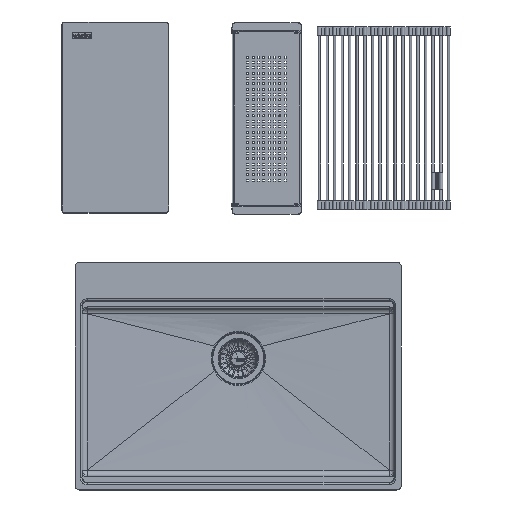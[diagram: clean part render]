
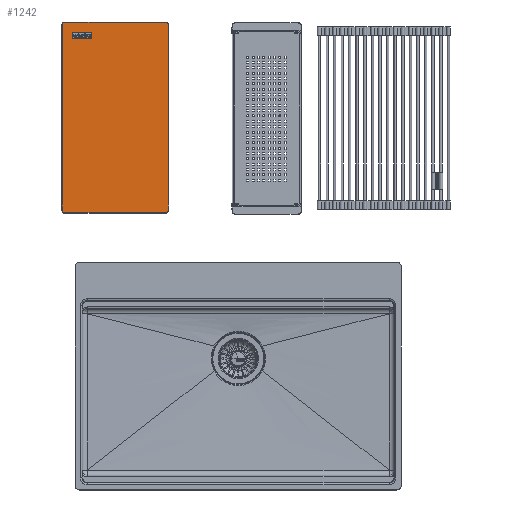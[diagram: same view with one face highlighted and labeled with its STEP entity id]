
A CAD part, top view. The second image highlights one B-rep face of the part: STEP entity #1242.
In plain terms, the highlighted planar face has unit normal (0, 0, 1).
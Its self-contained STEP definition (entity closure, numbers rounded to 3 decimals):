
#353=FACE_BOUND('',#10579,.T.);
#354=FACE_BOUND('',#10580,.T.);
#355=FACE_BOUND('',#10581,.T.);
#1242=ADVANCED_FACE('',(#5904,#353,#354,#355),#80887,.T.);
#5904=FACE_OUTER_BOUND('',#10578,.T.);
#10578=EDGE_LOOP('',(#16955,#16956,#16957,#16958,#16959,#16960,#16961,#16962));
#10579=EDGE_LOOP('',(#16963,#16964,#16965,#16966));
#10580=EDGE_LOOP('',(#16967,#16968,#16969,#16970));
#10581=EDGE_LOOP('',(#16971,#16972,#16973,#16974));
#16955=ORIENTED_EDGE('',*,*,#42175,.T.);
#16956=ORIENTED_EDGE('',*,*,#42131,.T.);
#16957=ORIENTED_EDGE('',*,*,#42190,.T.);
#16958=ORIENTED_EDGE('',*,*,#42132,.T.);
#16959=ORIENTED_EDGE('',*,*,#42186,.T.);
#16960=ORIENTED_EDGE('',*,*,#42133,.T.);
#16961=ORIENTED_EDGE('',*,*,#42180,.T.);
#16962=ORIENTED_EDGE('',*,*,#42134,.T.);
#16963=ORIENTED_EDGE('',*,*,#41820,.T.);
#16964=ORIENTED_EDGE('',*,*,#41816,.T.);
#16965=ORIENTED_EDGE('',*,*,#41826,.T.);
#16966=ORIENTED_EDGE('',*,*,#41823,.T.);
#16967=ORIENTED_EDGE('',*,*,#41952,.T.);
#16968=ORIENTED_EDGE('',*,*,#41948,.T.);
#16969=ORIENTED_EDGE('',*,*,#41958,.T.);
#16970=ORIENTED_EDGE('',*,*,#41955,.T.);
#16971=ORIENTED_EDGE('',*,*,#42105,.T.);
#16972=ORIENTED_EDGE('',*,*,#42101,.T.);
#16973=ORIENTED_EDGE('',*,*,#42111,.T.);
#16974=ORIENTED_EDGE('',*,*,#42108,.T.);
#41816=EDGE_CURVE('',#71844,#71845,#54630,.T.);
#41820=EDGE_CURVE('',#71848,#71844,#54634,.T.);
#41823=EDGE_CURVE('',#71850,#71848,#54637,.T.);
#41826=EDGE_CURVE('',#71845,#71850,#54640,.T.);
#41948=EDGE_CURVE('',#71932,#71933,#54762,.T.);
#41952=EDGE_CURVE('',#71936,#71932,#54766,.T.);
#41955=EDGE_CURVE('',#71938,#71936,#54769,.T.);
#41958=EDGE_CURVE('',#71933,#71938,#54772,.T.);
#42101=EDGE_CURVE('',#72034,#72035,#54915,.T.);
#42105=EDGE_CURVE('',#72038,#72034,#54919,.T.);
#42108=EDGE_CURVE('',#72040,#72038,#54922,.T.);
#42111=EDGE_CURVE('',#72035,#72040,#54925,.T.);
#42131=EDGE_CURVE('',#72055,#72056,#54939,.T.);
#42132=EDGE_CURVE('',#72057,#72058,#54940,.T.);
#42133=EDGE_CURVE('',#72059,#72060,#54941,.T.);
#42134=EDGE_CURVE('',#72061,#72054,#54942,.T.);
#42175=EDGE_CURVE('',#72054,#72055,#63011,.T.);
#42180=EDGE_CURVE('',#72060,#72061,#63015,.T.);
#42186=EDGE_CURVE('',#72058,#72059,#63021,.T.);
#42190=EDGE_CURVE('',#72056,#72057,#63024,.T.);
#54630=B_SPLINE_CURVE_WITH_KNOTS('',1,(#113880,#113881),.UNSPECIFIED.,.F.,
 .F.,(2,2),(-13.567,0.),.UNSPECIFIED.);
#54634=B_SPLINE_CURVE_WITH_KNOTS('',1,(#113888,#113889),.UNSPECIFIED.,.F.,
 .F.,(2,2),(-13.65,0.),.UNSPECIFIED.);
#54637=B_SPLINE_CURVE_WITH_KNOTS('',1,(#113894,#113895),.UNSPECIFIED.,.F.,
 .F.,(2,2),(-13.567,0.),.UNSPECIFIED.);
#54640=B_SPLINE_CURVE_WITH_KNOTS('',1,(#113900,#113901),.UNSPECIFIED.,.F.,
 .F.,(2,2),(-13.65,0.),.UNSPECIFIED.);
#54762=B_SPLINE_CURVE_WITH_KNOTS('',1,(#114144,#114145),.UNSPECIFIED.,.F.,
 .F.,(2,2),(-13.567,0.),.UNSPECIFIED.);
#54766=B_SPLINE_CURVE_WITH_KNOTS('',1,(#114152,#114153),.UNSPECIFIED.,.F.,
 .F.,(2,2),(-13.5,0.),.UNSPECIFIED.);
#54769=B_SPLINE_CURVE_WITH_KNOTS('',1,(#114158,#114159),.UNSPECIFIED.,.F.,
 .F.,(2,2),(-13.567,0.),.UNSPECIFIED.);
#54772=B_SPLINE_CURVE_WITH_KNOTS('',1,(#114164,#114165),.UNSPECIFIED.,.F.,
 .F.,(2,2),(-13.5,0.),.UNSPECIFIED.);
#54915=B_SPLINE_CURVE_WITH_KNOTS('',1,(#114450,#114451),.UNSPECIFIED.,.F.,
 .F.,(2,2),(-13.567,0.),.UNSPECIFIED.);
#54919=B_SPLINE_CURVE_WITH_KNOTS('',1,(#114458,#114459),.UNSPECIFIED.,.F.,
 .F.,(2,2),(-13.65,0.),.UNSPECIFIED.);
#54922=B_SPLINE_CURVE_WITH_KNOTS('',1,(#114464,#114465),.UNSPECIFIED.,.F.,
 .F.,(2,2),(-13.567,0.),.UNSPECIFIED.);
#54925=B_SPLINE_CURVE_WITH_KNOTS('',1,(#114470,#114471),.UNSPECIFIED.,.F.,
 .F.,(2,2),(-13.65,0.),.UNSPECIFIED.);
#54939=B_SPLINE_CURVE_WITH_KNOTS('',1,(#114516,#114517),.UNSPECIFIED.,.F.,
 .F.,(2,2),(0.,414.),.UNSPECIFIED.);
#54940=B_SPLINE_CURVE_WITH_KNOTS('',1,(#114518,#114519),.UNSPECIFIED.,.F.,
 .F.,(2,2),(0.,226.),.UNSPECIFIED.);
#54941=B_SPLINE_CURVE_WITH_KNOTS('',1,(#114520,#114521),.UNSPECIFIED.,.F.,
 .F.,(2,2),(0.,414.),.UNSPECIFIED.);
#54942=B_SPLINE_CURVE_WITH_KNOTS('',1,(#114522,#114523),.UNSPECIFIED.,.F.,
 .F.,(2,2),(0.,226.),.UNSPECIFIED.);
#63011=TRIMMED_CURVE($,#67310,(#114628),(#114629),.T.,.CARTESIAN.);
#63015=TRIMMED_CURVE($,#67314,(#114642),(#114643),.T.,.CARTESIAN.);
#63021=TRIMMED_CURVE($,#67320,(#114660),(#114661),.T.,.CARTESIAN.);
#63024=TRIMMED_CURVE($,#67323,(#114671),(#114672),.T.,.CARTESIAN.);
#67310=CIRCLE('',#86131,6.);
#67314=CIRCLE('',#86135,6.);
#67320=CIRCLE('',#86141,6.);
#67323=CIRCLE('',#86144,6.);
#71844=VERTEX_POINT('',#113344);
#71845=VERTEX_POINT('',#113345);
#71848=VERTEX_POINT('',#113348);
#71850=VERTEX_POINT('',#113350);
#71932=VERTEX_POINT('',#113432);
#71933=VERTEX_POINT('',#113433);
#71936=VERTEX_POINT('',#113436);
#71938=VERTEX_POINT('',#113438);
#72034=VERTEX_POINT('',#113534);
#72035=VERTEX_POINT('',#113535);
#72038=VERTEX_POINT('',#113538);
#72040=VERTEX_POINT('',#113540);
#72054=VERTEX_POINT('',#113554);
#72055=VERTEX_POINT('',#113555);
#72056=VERTEX_POINT('',#113556);
#72057=VERTEX_POINT('',#113557);
#72058=VERTEX_POINT('',#113558);
#72059=VERTEX_POINT('',#113559);
#72060=VERTEX_POINT('',#113560);
#72061=VERTEX_POINT('',#113561);
#80887=PLANE('',#86056);
#86056=AXIS2_PLACEMENT_3D('',#112248,#94659,$);
#86131=AXIS2_PLACEMENT_3D($,#114627,#94775,#94776);
#86135=AXIS2_PLACEMENT_3D($,#114641,#94783,#94784);
#86141=AXIS2_PLACEMENT_3D($,#114659,#94795,#94796);
#86144=AXIS2_PLACEMENT_3D($,#114670,#94801,#94802);
#94659=DIRECTION('',(0.,0.,1.));
#94775=DIRECTION('',(0.,0.,1.));
#94776=DIRECTION('',(0.,-1.,0.));
#94783=DIRECTION('',(0.,0.,1.));
#94784=DIRECTION('',(-1.,0.,0.));
#94795=DIRECTION('',(0.,0.,1.));
#94796=DIRECTION('',(0.,1.,0.));
#94801=DIRECTION('',(0.,0.,1.));
#94802=DIRECTION('',(1.,0.,0.));
#112248=CARTESIAN_POINT('',(-142.92,-255.72,0.));
#113344=CARTESIAN_POINT('',(-96.,176.433,0.));
#113345=CARTESIAN_POINT('',(-96.,190.,0.));
#113348=CARTESIAN_POINT('',(-82.35,176.433,0.));
#113350=CARTESIAN_POINT('',(-82.35,190.,0.));
#113432=CARTESIAN_POINT('',(-81.75,176.433,0.));
#113433=CARTESIAN_POINT('',(-81.75,190.,0.));
#113436=CARTESIAN_POINT('',(-68.25,176.433,0.));
#113438=CARTESIAN_POINT('',(-68.25,190.,0.));
#113534=CARTESIAN_POINT('',(-67.65,176.433,0.));
#113535=CARTESIAN_POINT('',(-67.65,190.,0.));
#113538=CARTESIAN_POINT('',(-54.,176.433,0.));
#113540=CARTESIAN_POINT('',(-54.,190.,0.));
#113554=CARTESIAN_POINT('',(113.,-213.,0.));
#113555=CARTESIAN_POINT('',(119.,-207.,0.));
#113556=CARTESIAN_POINT('',(119.,207.,0.));
#113557=CARTESIAN_POINT('',(113.,213.,0.));
#113558=CARTESIAN_POINT('',(-113.,213.,0.));
#113559=CARTESIAN_POINT('',(-119.,207.,0.));
#113560=CARTESIAN_POINT('',(-119.,-207.,0.));
#113561=CARTESIAN_POINT('',(-113.,-213.,0.));
#113880=CARTESIAN_POINT('',(-96.,176.433,0.));
#113881=CARTESIAN_POINT('',(-96.,190.,0.));
#113888=CARTESIAN_POINT('',(-82.35,176.433,0.));
#113889=CARTESIAN_POINT('',(-96.,176.433,0.));
#113894=CARTESIAN_POINT('',(-82.35,190.,0.));
#113895=CARTESIAN_POINT('',(-82.35,176.433,0.));
#113900=CARTESIAN_POINT('',(-96.,190.,0.));
#113901=CARTESIAN_POINT('',(-82.35,190.,0.));
#114144=CARTESIAN_POINT('',(-81.75,176.433,0.));
#114145=CARTESIAN_POINT('',(-81.75,190.,0.));
#114152=CARTESIAN_POINT('',(-68.25,176.433,0.));
#114153=CARTESIAN_POINT('',(-81.75,176.433,0.));
#114158=CARTESIAN_POINT('',(-68.25,190.,0.));
#114159=CARTESIAN_POINT('',(-68.25,176.433,0.));
#114164=CARTESIAN_POINT('',(-81.75,190.,0.));
#114165=CARTESIAN_POINT('',(-68.25,190.,0.));
#114450=CARTESIAN_POINT('',(-67.65,176.433,0.));
#114451=CARTESIAN_POINT('',(-67.65,190.,0.));
#114458=CARTESIAN_POINT('',(-54.,176.433,0.));
#114459=CARTESIAN_POINT('',(-67.65,176.433,0.));
#114464=CARTESIAN_POINT('',(-54.,190.,0.));
#114465=CARTESIAN_POINT('',(-54.,176.433,0.));
#114470=CARTESIAN_POINT('',(-67.65,190.,0.));
#114471=CARTESIAN_POINT('',(-54.,190.,0.));
#114516=CARTESIAN_POINT('',(119.,-207.,0.));
#114517=CARTESIAN_POINT('',(119.,207.,0.));
#114518=CARTESIAN_POINT('',(113.,213.,0.));
#114519=CARTESIAN_POINT('',(-113.,213.,0.));
#114520=CARTESIAN_POINT('',(-119.,207.,0.));
#114521=CARTESIAN_POINT('',(-119.,-207.,0.));
#114522=CARTESIAN_POINT('',(-113.,-213.,0.));
#114523=CARTESIAN_POINT('',(113.,-213.,0.));
#114627=CARTESIAN_POINT('',(113.,-207.,0.));
#114628=CARTESIAN_POINT('',(113.,-213.,0.));
#114629=CARTESIAN_POINT('',(119.,-207.,0.));
#114641=CARTESIAN_POINT('',(-113.,-207.,0.));
#114642=CARTESIAN_POINT('',(-119.,-207.,0.));
#114643=CARTESIAN_POINT('',(-113.,-213.,0.));
#114659=CARTESIAN_POINT('',(-113.,207.,0.));
#114660=CARTESIAN_POINT('',(-113.,213.,0.));
#114661=CARTESIAN_POINT('',(-119.,207.,0.));
#114670=CARTESIAN_POINT('',(113.,207.,0.));
#114671=CARTESIAN_POINT('',(119.,207.,0.));
#114672=CARTESIAN_POINT('',(113.,213.,0.));
